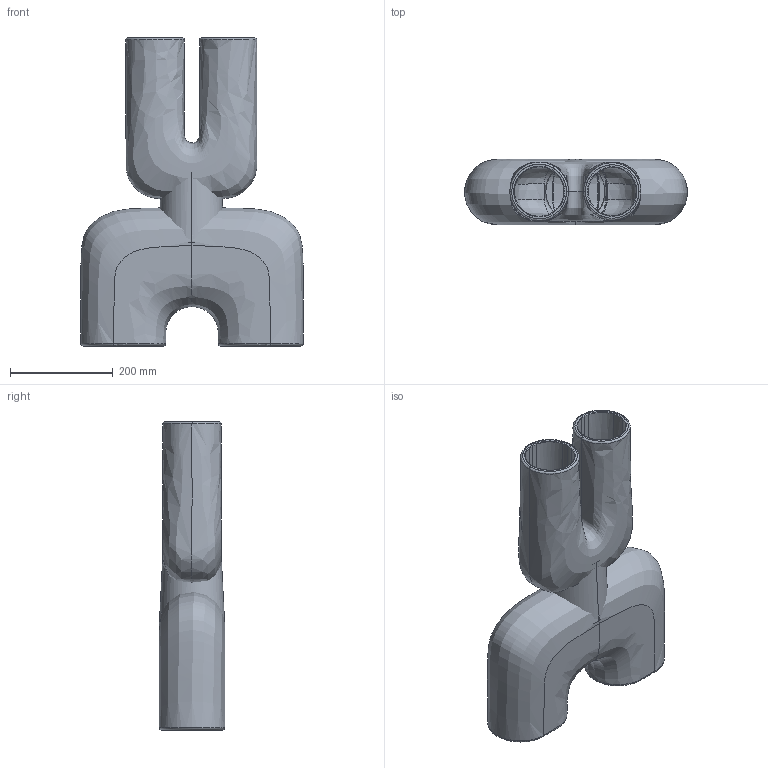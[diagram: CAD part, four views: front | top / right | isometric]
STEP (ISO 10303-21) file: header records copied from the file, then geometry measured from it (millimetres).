
FILE_DESCRIPTION(/* description */ (''),/* implementation_level */ '2;1');
FILE_NAME(/* name */ 'Cobra Double Hexa',/* time_stamp */ '2021-01-26T12:52:29+01:00',/* author */ (''),/* organization */ (''),/* preprocessor_version */ 'ST-DEVELOPER v15',/* originating_system */ '',/* authorisation */ '');
FILE_SCHEMA (('AUTOMOTIVE_DESIGN'));
Products named in the file (1): Document
Bounding box: 434.26 x 127.71 x 600 mm (x, y, z)
Volume: 11485386.7 mm3; surface area: 1069412.9 mm2
Topology: 1 solids, 7 shells, 141 faces, 316 edges, 182 vertices
Faces by surface type: bspline 137, plane 4
Entity records: 117409 total; most frequent: CARTESIAN_POINT 115747, ORIENTED_EDGE 596, EDGE_CURVE 312, VERTEX_POINT 175, EDGE_LOOP 143, ADVANCED_FACE 141, FACE_OUTER_BOUND 141, DIRECTION 12
